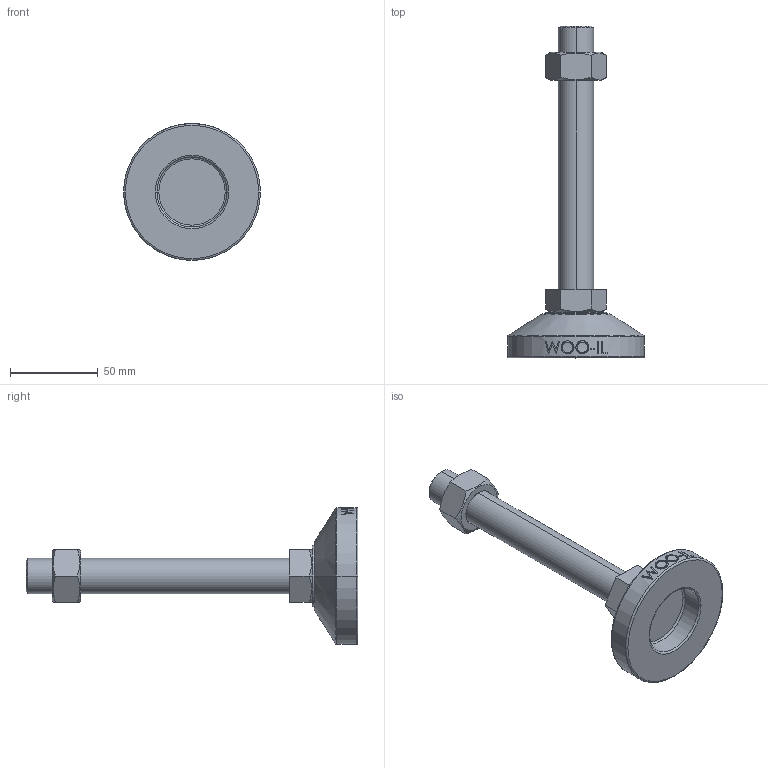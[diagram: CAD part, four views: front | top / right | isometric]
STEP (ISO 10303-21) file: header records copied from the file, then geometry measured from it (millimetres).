
FILE_DESCRIPTION (( 'STEP AP214' ), '1' );
FILE_NAME ('MF78-M20-150.step', '2021-02-03T08:21:34', ( '' ), ( '' ), 'SwSTEP 2.0', 'SolidWorks 2019', '' );
FILE_SCHEMA (( 'AUTOMOTIVE_DESIGN' ));
Length unit declared in the file: millimetre
Products named in the file (2): MF78-M20-150
Bounding box: 78 x 189 x 78 mm (x, y, z)
Volume: 144349.9 mm3; surface area: 30419.2 mm2
Topology: 3 solids, 3 shells, 106 faces, 247 edges, 158 vertices
Faces by surface type: plane 48, cylinder 18, bspline 16, cone 14, torus 10
Entity records: 4564 total; most frequent: CARTESIAN_POINT 2201, ORIENTED_EDGE 494, DIRECTION 439, EDGE_CURVE 247, AXIS2_PLACEMENT_3D 170, VERTEX_POINT 158, EDGE_LOOP 119, FACE_OUTER_BOUND 106
